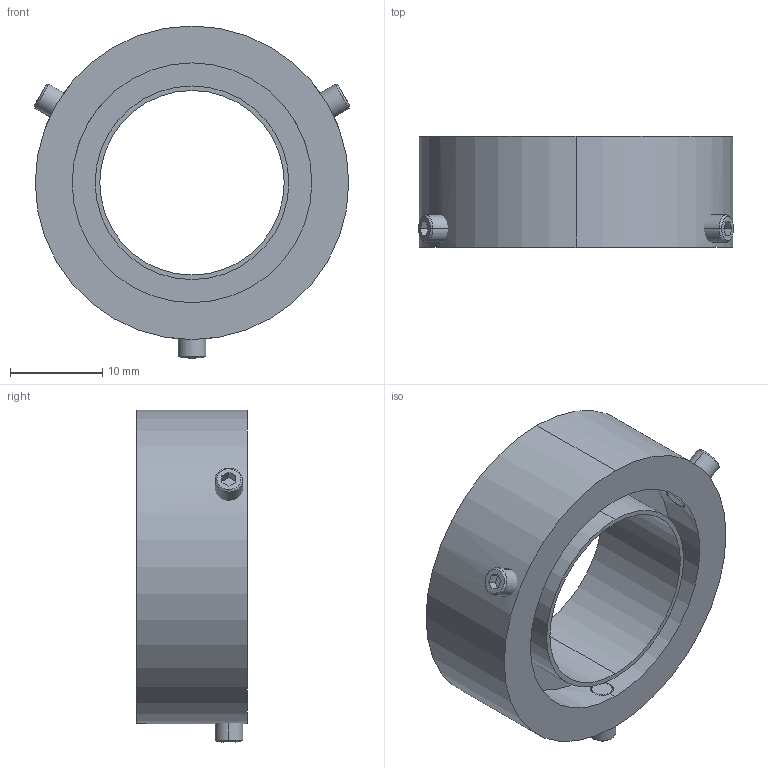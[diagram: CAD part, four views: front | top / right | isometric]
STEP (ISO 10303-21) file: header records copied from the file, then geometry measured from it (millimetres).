
FILE_DESCRIPTION (( 'STEP AP203' ), '1' );
FILE_NAME ('MN01353D01_00.STEP', '2018-05-22T05:57:12', ( '' ), ( '' ), 'SwSTEP 2.0', 'SolidWorks 2016', '' );
FILE_SCHEMA (( 'CONFIG_CONTROL_DESIGN' ));
Length unit declared in the file: millimetre
Products named in the file (4): MN01353D01_00; navojni_zatic_M3x6_DIN913; Magnet_D32-d22-w4; Nosilec_magneta_os_fi20
Assembly tree (5 placements, depth 2):
  MN01353D01_00
    Nosilec_magneta_os_fi20
    navojni_zatic_M3x6_DIN913  x3
    Magnet_D32-d22-w4
Bounding box: 34.21 x 12 x 36 mm (x, y, z)
Volume: 6097.7 mm3; surface area: 6467.2 mm2
Topology: 5 solids, 5 shells, 95 faces, 206 edges, 127 vertices
Faces by surface type: plane 36, cylinder 30, cone 21, torus 8
Entity records: 2477 total; most frequent: CARTESIAN_POINT 531, DIRECTION 343, ORIENTED_EDGE 284, AXIS2_PLACEMENT_3D 145, EDGE_CURVE 142, VERTEX_POINT 87, EDGE_LOOP 79, CIRCLE 72
